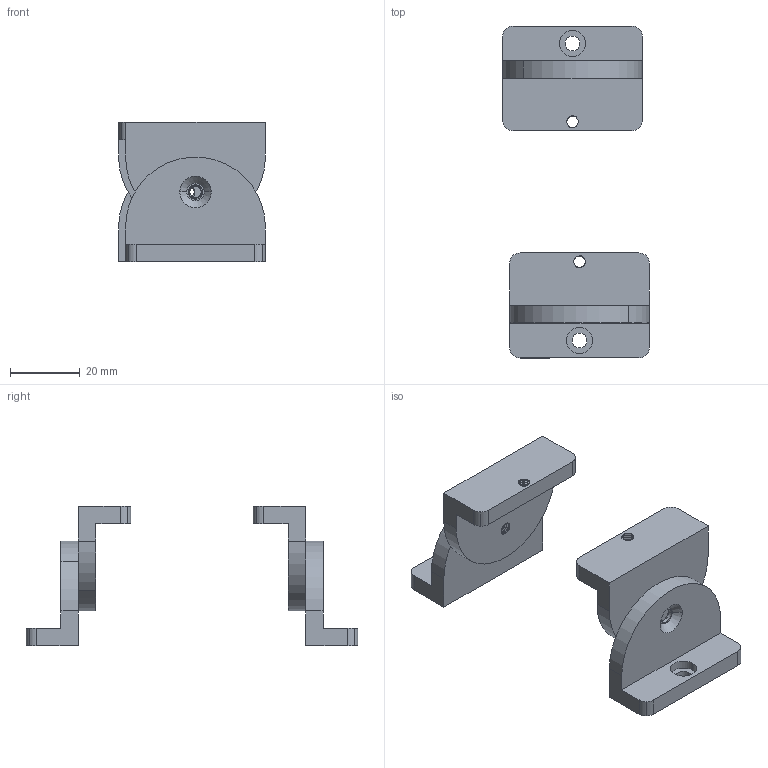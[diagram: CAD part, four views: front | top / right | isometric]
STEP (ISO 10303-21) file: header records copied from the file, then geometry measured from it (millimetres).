
FILE_DESCRIPTION(('FreeCAD Model'),'2;1');
FILE_NAME('Open CASCADE Shape Model','2024-05-28T11:02:07',(''),(''), 'Open CASCADE STEP processor 7.6','FreeCAD','Unknown');
FILE_SCHEMA(('AUTOMOTIVE_DESIGN { 1 0 10303 214 1 1 1 1 }'));
Length unit declared in the file: millimetre
Products named in the file (5): Unnamed; 1036; 1037; 1036001; 1037001
Assembly tree (4 placements, depth 2):
  Unnamed
    1036
    1037
    1036001
    1037001
Bounding box: 42 x 95 x 40 mm (x, y, z)
Volume: 13610.4 mm3; surface area: 14353.4 mm2
Topology: 2 solids, 4 shells, 150 faces, 432 edges, 292 vertices
Faces by surface type: cylinder 96, plane 38, cone 16
Entity records: 35954 total; most frequent: CARTESIAN_POINT 32159, DIRECTION 722, ORIENTED_EDGE 704, EDGE_CURVE 432, VERTEX_POINT 292, AXIS2_PLACEMENT_3D 271, LINE 180, VECTOR 180
